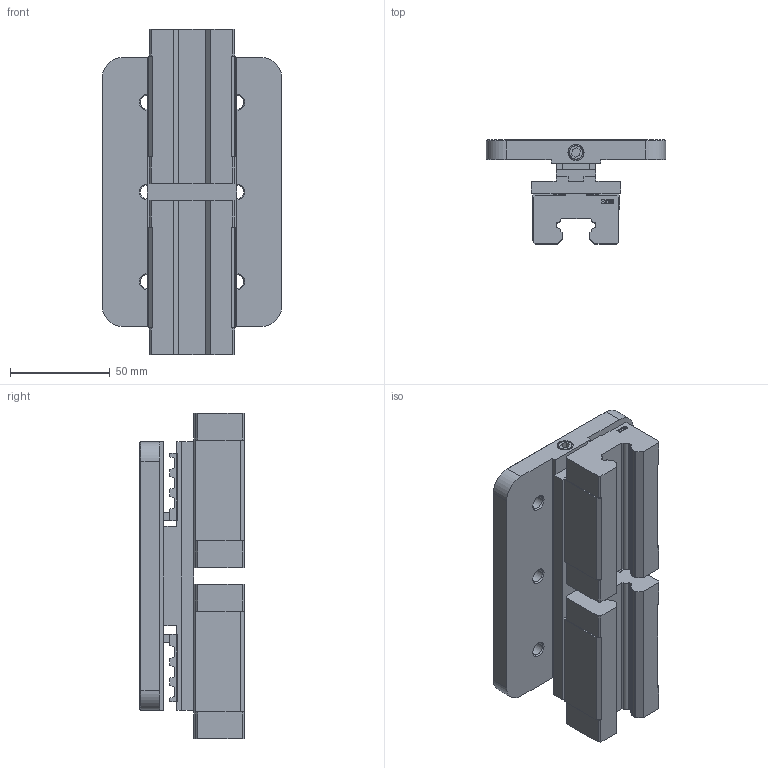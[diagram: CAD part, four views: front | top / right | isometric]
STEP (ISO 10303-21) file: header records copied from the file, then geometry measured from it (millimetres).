
FILE_DESCRIPTION (( 'STEP AP214' ), '1' );
FILE_NAME ('1.8015 Hammashihnan kiristin GL kelkalla.STEP', '2025-09-18T06:49:28', ( '' ), ( '' ), 'SwSTEP 2.0', 'SolidWorks 2025', '' );
FILE_SCHEMA (( 'AUTOMOTIVE_DESIGN' ));
Length unit declared in the file: millimetre
Products named in the file (1): 1.8015 Hammashihnan kiristin GL kelkalla
Bounding box: 90 x 52.4 x 163.5 mm (x, y, z)
Surface area: 92505.6 mm2 (no closed solid volume)
Topology: 0 solids, 18 shells, 912 faces, 2272 edges, 1420 vertices
Faces by surface type: plane 530, cylinder 198, cone 100, bspline 48, torus 36
Entity records: 40977 total; most frequent: CARTESIAN_POINT 9021, DIRECTION 4474, ORIENTED_EDGE 4456, EDGE_CURVE 2248, VECTOR 1560, LINE 1560, AXIS2_PLACEMENT_3D 1457, VERTEX_POINT 1420
